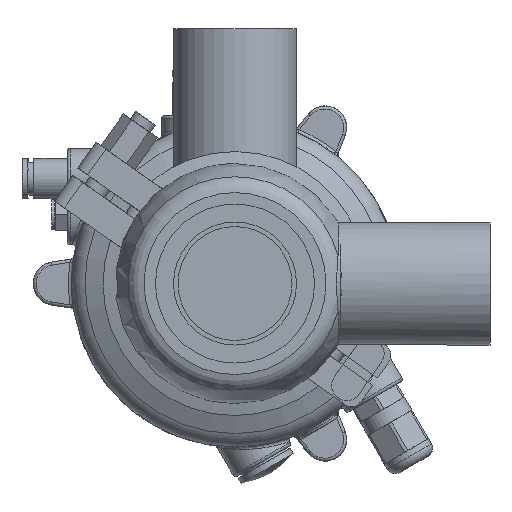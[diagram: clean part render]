
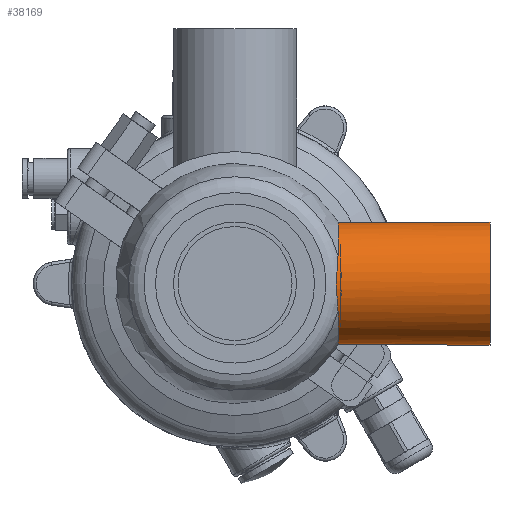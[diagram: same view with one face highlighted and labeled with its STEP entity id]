
A CAD part, front view. The second image highlights one B-rep face of the part: STEP entity #38169.
In plain terms, the highlighted cylindrical face has radius 20.5 mm (diameter 41 mm), a full revolution.
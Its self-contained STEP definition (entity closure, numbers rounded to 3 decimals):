
#599 = CARTESIAN_POINT ( 'NONE',  ( 34.347, -19.003, 7.862 ) ) ;
#632 = AXIS2_PLACEMENT_3D ( 'NONE', #38122, #5469, #19536 ) ;
#1889 = FACE_OUTER_BOUND ( 'NONE', #45105, .T. ) ;
#2606 = CARTESIAN_POINT ( 'NONE',  ( 33.983, -20.109, -4.007 ) ) ;
#4883 = DIRECTION ( 'NONE',  ( 1., 0., 0. ) ) ;
#5469 = DIRECTION ( 'NONE',  ( -1., 0., 0. ) ) ;
#6039 = CARTESIAN_POINT ( 'NONE',  ( 33.772, -20.5, -0.802 ) ) ;
#7028 = DIRECTION ( 'NONE',  ( 0., 0., 1. ) ) ;
#9348 = ORIENTED_EDGE ( 'NONE', *, *, #28878, .T. ) ;
#10129 = EDGE_CURVE ( 'NONE', #20131, #20131, #42463, .T. ) ;
#13851 = EDGE_LOOP ( 'NONE', ( #45497 ) ) ;
#15495 = CARTESIAN_POINT ( 'NONE',  ( 33.772, -20.5, 0.802 ) ) ;
#15499 = CARTESIAN_POINT ( 'NONE',  ( 85., 0., 20.5 ) ) ;
#16093 = CARTESIAN_POINT ( 'NONE',  ( 34.347, -18.261, -9.316 ) ) ;
#16779 = CYLINDRICAL_SURFACE ( 'NONE', #58072, 20.5 ) ;
#17069 = CARTESIAN_POINT ( 'NONE',  ( 0., 0., 0. ) ) ;
#19181 = CARTESIAN_POINT ( 'NONE',  ( 34.203, -19.557, 6.355 ) ) ;
#19536 = DIRECTION ( 'NONE',  ( 0., 0., 1. ) ) ;
#20127 = CARTESIAN_POINT ( 'NONE',  ( 33.982, -20.121, 4.006 ) ) ;
#20131 = VERTEX_POINT ( 'NONE', #15499 ) ;
#20215 = VERTEX_POINT ( 'NONE', #16093 ) ;
#24483 = CARTESIAN_POINT ( 'NONE',  ( 34.347, -18.261, 9.316 ) ) ;
#24705 = CARTESIAN_POINT ( 'NONE',  ( 34.347, -19.003, -7.861 ) ) ;
#28107 = DIRECTION ( 'NONE',  ( 0., 0., 1. ) ) ;
#28339 = AXIS2_PLACEMENT_3D ( 'NONE', #41789, #4883, #28107 ) ;
#28508 = EDGE_CURVE ( 'NONE', #20215, #52966, #57494, .T. ) ;
#28878 = EDGE_CURVE ( 'NONE', #52966, #20215, #43926, .T. ) ;
#28994 = CARTESIAN_POINT ( 'NONE',  ( 34.347, -18.261, 9.316 ) ) ;
#29292 = CARTESIAN_POINT ( 'NONE',  ( 33.882, -20.311, -2.808 ) ) ;
#29601 = CARTESIAN_POINT ( 'NONE',  ( 33.803, -20.453, 1.603 ) ) ;
#30294 = DIRECTION ( 'NONE',  ( -1., 0., 0. ) ) ;
#31306 = CARTESIAN_POINT ( 'NONE',  ( 33.914, -20.251, -3.21 ) ) ;
#32223 = ORIENTED_EDGE ( 'NONE', *, *, #28508, .T. ) ;
#35520 = CARTESIAN_POINT ( 'NONE',  ( 34.02, -20.026, -4.401 ) ) ;
#38122 = CARTESIAN_POINT ( 'NONE',  ( 85., 0., 0. ) ) ;
#38169 = ADVANCED_FACE ( 'NONE', ( #1889, #44547 ), #16779, .T. ) ;
#38684 = CARTESIAN_POINT ( 'NONE',  ( 33.908, -20.264, 3.204 ) ) ;
#39818 = CARTESIAN_POINT ( 'NONE',  ( 33.803, -20.453, -1.604 ) ) ;
#41789 = CARTESIAN_POINT ( 'NONE',  ( 34.347, 0., 0. ) ) ;
#42463 = CIRCLE ( 'NONE', #632, 20.5 ) ;
#43252 = CARTESIAN_POINT ( 'NONE',  ( 34.347, -18.261, -9.316 ) ) ;
#43926 = B_SPLINE_CURVE_WITH_KNOTS ( 'NONE', 3,
 ( #28994, #599, #19181, #20127, #38684, #29601, #15495, #6039, #39818, #29292, #31306, #2606, #35520, #47819, #24705, #43252 ),
 .UNSPECIFIED., .F., .F.,
 ( 4, 2, 2, 2, 2, 2, 2, 4 ),
 ( 0., 0.005, 0.007, 0.01, 0.012, 0.013, 0.014, 0.019 ),
 .UNSPECIFIED. ) ;
#44547 = FACE_OUTER_BOUND ( 'NONE', #13851, .T. ) ;
#45105 = EDGE_LOOP ( 'NONE', ( #32223, #9348 ) ) ;
#45497 = ORIENTED_EDGE ( 'NONE', *, *, #10129, .T. ) ;
#47819 = CARTESIAN_POINT ( 'NONE',  ( 34.203, -19.556, -6.355 ) ) ;
#52966 = VERTEX_POINT ( 'NONE', #24483 ) ;
#57494 = CIRCLE ( 'NONE', #28339, 20.5 ) ;
#58072 = AXIS2_PLACEMENT_3D ( 'NONE', #17069, #30294, #7028 ) ;
